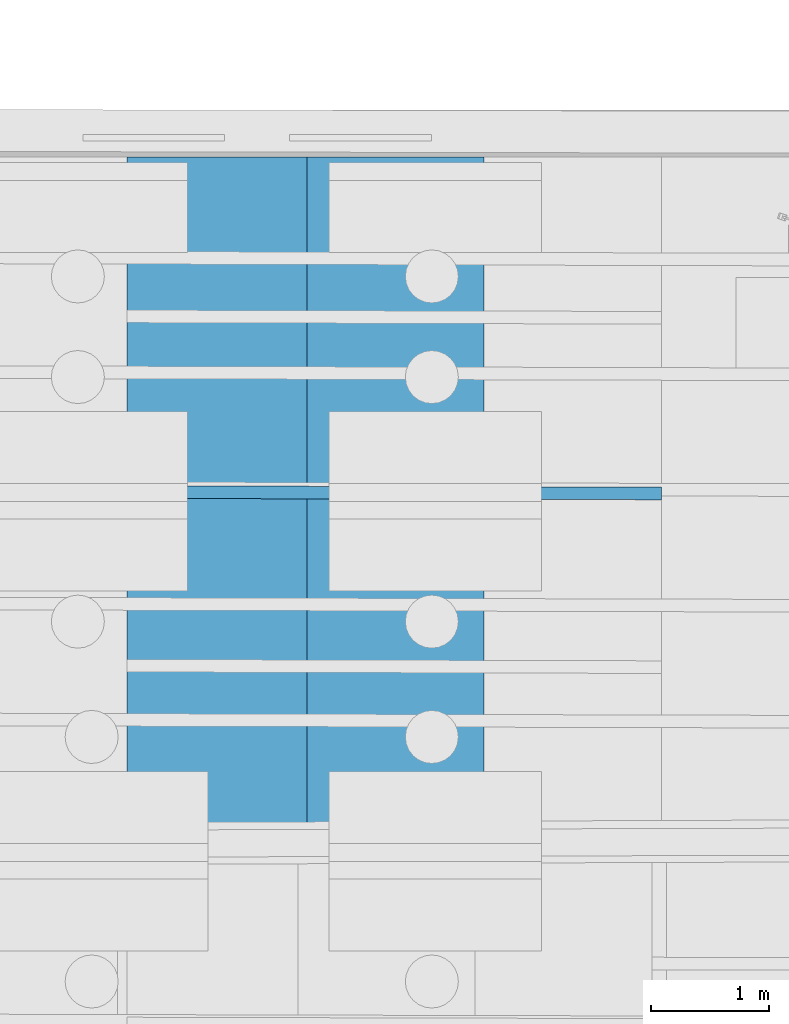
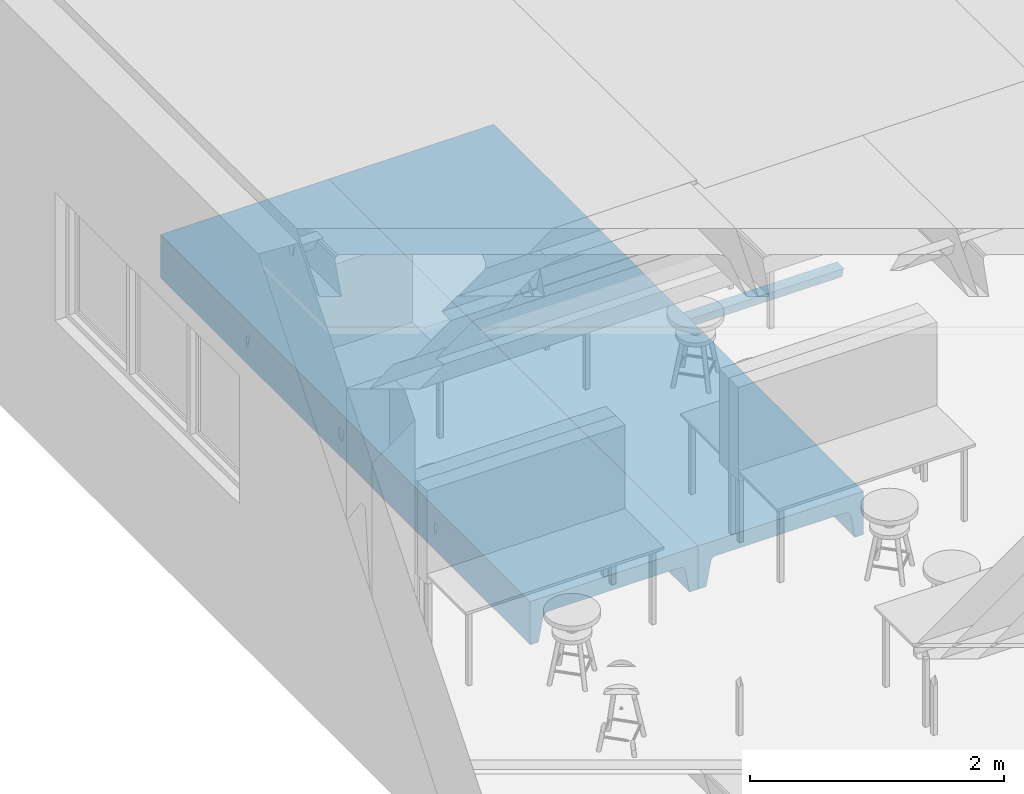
# One storey, part 23 of 153: 3 beams.
"""IFC2X3 building model written with IfcOpenShell, lengths in millimetres."""

from ifc_helpers import new_model, entity, si_unit, converted_unit, derived_unit, money_unit, direction, frame, origin_with_axes, place, context, subcontext, project, spatial, faceted_brep, material, type_object, element, save


model = new_model("IFC2X3")

# Units and contexts
model_context = context("Model", 3, precision=0.01, world=origin_with_axes(), true_north=direction((0.0, 1.0)))
body_context = subcontext(model_context, "Body", "Model", "MODEL_VIEW")
ifc_project = project(units=[si_unit("LENGTHUNIT", "METRE", prefix="MILLI"), si_unit("AREAUNIT", "SQUARE_METRE"), si_unit("VOLUMEUNIT", "CUBIC_METRE"), converted_unit("PLANEANGLEUNIT", "DEGREE", entity("IfcPlaneAngleMeasure", 0.0174532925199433), si_unit("PLANEANGLEUNIT", "RADIAN"), dimensions=[0, 0, 0, 0, 0, 0, 0]), money_unit("EUR"), converted_unit("TIMEUNIT", "Year", entity("IfcTimeMeasure", 31557600.0), si_unit("TIMEUNIT", "SECOND"), dimensions=[0, 0, 1, 0, 0, 0, 0]), si_unit("MASSUNIT", "GRAM", prefix="KILO"), si_unit("THERMODYNAMICTEMPERATUREUNIT", "DEGREE_CELSIUS"), si_unit("LUMINOUSINTENSITYUNIT", "LUMEN"), si_unit("ENERGYUNIT", "JOULE", prefix="MEGA"), derived_unit("THERMALCONDUCTANCEUNIT", [(si_unit("POWERUNIT", "WATT"), 1), (si_unit("LENGTHUNIT", "METRE"), -1), (si_unit("THERMODYNAMICTEMPERATUREUNIT", "KELVIN"), -1)]), derived_unit("SPECIFICHEATCAPACITYUNIT", [(si_unit("ENERGYUNIT", "JOULE"), 1), (si_unit("MASSUNIT", "GRAM", prefix="KILO"), -1), (si_unit("THERMODYNAMICTEMPERATUREUNIT", "KELVIN"), -1)]), derived_unit("MASSDENSITYUNIT", [(si_unit("MASSUNIT", "GRAM", prefix="KILO"), 1), (si_unit("VOLUMEUNIT", "CUBIC_METRE"), -1)])], contexts=[model_context])

# Site, building, storey
site_placement = place(None, frame((0.0, 0.0, 8650.0), z_axis=(0.0, 0.0, 1.0), x_axis=(1.0, 0.0, 0.0)))
site = spatial("IfcSite", under=ifc_project, at=site_placement, Name="43301:001:0844", CompositionType="ELEMENT")
building_placement = place(site_placement, origin_with_axes())
building = spatial("IfcBuilding", under=site, at=building_placement, Name="Kuressaare Ametikooli tuulikute mehaanikute õppekorpus", CompositionType="ELEMENT")
storey_placement = place(building_placement, frame((0.0, 0.0, 4100.0), z_axis=(0.0, 0.0, 1.0), x_axis=(1.0, 0.0, 0.0)))
storey = spatial("IfcBuildingStorey", under=building, at=storey_placement, Name="2.korrus", CompositionType="ELEMENT", Elevation=4100.0)

# Beams
ifc_material = material(Name="GENEERILINE - KONSTRUKTRIOON")
beam_type_1 = type_object("IfcBeamType", Name="Precast Single Tee 2 107 x 102", PredefinedType="NOTDEFINED")
beam_1_placement = place(storey_placement, frame((89817.75241851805, 35007.19419962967, -689.9999999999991), z_axis=(0.0, 0.0, 1.0), x_axis=(-0.002672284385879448, -0.9999964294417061, 0.0)))
element("IfcBeam", 1, at=beam_1_placement, inside=storey, type_object=beam_type_1, material=ifc_material, context=body_context, shape_type="Brep", body=[
    faceted_brep([(45.31502884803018, 0.0, -5.574334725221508), (45.31502884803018, 4530.016174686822, -5.574334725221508), (53.51387546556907, 4530.016174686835, 0.0), (53.51387546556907, 0.0, 0.0), (40.74041549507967, 0.0, -14.37019773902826), (40.74041549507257, 4530.016174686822, -14.37019773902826), (20.00045776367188, 4530.016174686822, -101.9474782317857), (-19.99954223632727, 4530.016174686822, -101.9474782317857), (-40.74046173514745, 4530.016174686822, -14.3700024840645), (-45.31509550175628, 4530.016174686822, -5.574259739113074), (-53.51387546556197, 4530.016174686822, 0.0), (-53.51387546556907, 0.0, 0.0), (-45.31509550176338, 0.0, -5.574259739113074), (-40.74046173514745, 0.0, -14.3700024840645), (-19.99954223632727, 0.0, -101.9474782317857), (20.00045776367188, 0.0, -101.9474782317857)], [[[0, 1, 2, 3]], [[4, 5, 1, 0]], [[2, 1, 5, 6, 7, 8, 9, 10]], [[3, 2, 10, 11]], [[4, 0, 3, 11, 12, 13, 14, 15]], [[15, 6, 5, 4]], [[14, 7, 6, 15]], [[13, 8, 7, 14]], [[12, 9, 8, 13]], [[11, 10, 9, 12]]]),
])
beam_type_2 = type_object("IfcBeamType", Name="Precast Double Tee 3 1525 x 415", PredefinedType="NOTDEFINED")
beam_2_placement = place(storey_placement, frame((90580.25241851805, 37845.7716648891, -539.9999999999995), z_axis=(0.0, 0.0, 1.0), x_axis=(-1.0, 0.0, 0.0)))
element("IfcBeam", 2, at=beam_2_placement, inside=storey, type_object=beam_type_2, material=ifc_material, context=body_context, shape_type="Brep", body=[
    faceted_brep([(762.5000000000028, 5811.435005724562, -415.0001340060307), (762.5000000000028, 5811.435005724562, 0.0), (762.5000000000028, 0.0, 0.0), (762.5000000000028, 0.0, -415.0001340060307), (762.5000000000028, 4363.570821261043, -149.9999999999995), (762.5000000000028, 4355.371945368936, -155.574334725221), (762.5000000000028, 4350.797315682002, -164.3701977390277), (762.5000000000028, 4330.057283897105, -251.9474782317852), (762.5000000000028, 4310.056754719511, -251.9474782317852), (762.5000000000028, 4310.056754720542, -149.9999999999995), (762.5000000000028, 2883.892655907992, -155.574334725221), (762.5000000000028, 2879.318026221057, -164.3701977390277), (762.5000000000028, 2858.57799443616, -251.9474782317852), (762.5000000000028, 2838.577465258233, -251.9474782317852), (762.5000000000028, 2838.57746525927, -149.9999999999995), (762.5000000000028, 2892.091531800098, -149.9999999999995), (762.5000000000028, 1390.244279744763, -164.3701977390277), (762.5000000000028, 1369.504247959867, -251.9474782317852), (762.5000000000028, 1349.503718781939, -251.9474782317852), (762.5000000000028, 1349.503718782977, -149.9999999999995), (762.5000000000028, 1403.017785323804, -149.9999999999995), (762.5000000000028, 1394.818909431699, -155.574334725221), (-630.3742921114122, 5811.435005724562, -164.5802967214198), (-642.2018747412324, 5811.435005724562, -180.3584478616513), (-647.7450826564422, 5811.435005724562, -199.2823642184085), (-682.2510280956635, 5811.435005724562, -415.0001340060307), (-762.5000000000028, 5811.435005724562, -415.0001340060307), (-762.5000000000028, 5811.435005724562, 0.0), (686.7096088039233, 5811.435005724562, -415.0001340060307), (644.8621749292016, 5811.435005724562, -188.8133237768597), (639.0698943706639, 5811.435005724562, -173.3049793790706), (628.3234422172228, 5811.435005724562, -160.712401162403), (613.9186038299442, 5811.435005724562, -152.5539766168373), (597.5922853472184, 5811.435005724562, -149.8134319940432), (596.1468073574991, 5811.435005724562, -149.8234995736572), (-594.4825828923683, 5811.435005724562, -149.8234995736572), (-613.7646293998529, 5811.435005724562, -153.9519916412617), (-762.5000000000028, 0.0, 0.0), (686.7096088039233, 0.0, -415.0001340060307), (-762.5000000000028, 0.0, -415.0001340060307), (-682.2510280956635, 0.0, -415.0001340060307), (-647.7450826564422, 0.0, -199.2823642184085), (-642.2018747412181, 0.0, -180.3584478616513), (-630.3742921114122, 0.0, -164.5802967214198), (-613.7646293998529, 0.0, -153.9519916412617), (-594.4825828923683, 0.0, -149.8234995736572), (596.1468073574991, 0.0, -149.8234995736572), (597.5922853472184, 0.0, -149.8134319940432), (613.9186038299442, 0.0, -152.5539766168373), (628.3234422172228, 0.0, -160.712401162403), (639.0698943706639, 0.0, -173.3049793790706), (644.8621749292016, 0.0, -188.8133237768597), (619.2514680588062, 4355.754747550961, -155.574334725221), (598.7037318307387, 4364.008533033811, -149.9999999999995), (613.9186038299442, 4360.211419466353, -152.5539766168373), (631.4449901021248, 4351.147533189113, -164.3701977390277), (628.3234422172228, 4353.058253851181, -160.712401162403), (656.5427957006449, 4330.340432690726, -251.9474782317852), (639.0698943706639, 4349.011224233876, -173.3049793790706), (644.8621749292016, 4345.323062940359, -188.8133237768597), (762.4465555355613, 4290.057283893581, -251.9474782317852), (656.5427957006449, 4290.340289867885, -251.9474782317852), (762.3911299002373, 4269.316438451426, -164.370002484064), (762.3789051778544, 4264.741821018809, -155.5742597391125), (762.3569957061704, 4256.543070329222, -149.9999999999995), (598.7037318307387, 4256.980399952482, -149.9999999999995), (619.2514680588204, 2884.275458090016, -155.574334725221), (628.3234422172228, 2881.578964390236, -160.712401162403), (631.4449901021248, 2879.668243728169, -164.3701977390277), (639.0698943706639, 2877.531934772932, -173.3049793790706), (644.8621749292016, 2873.843773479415, -188.8133237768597), (656.5427957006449, 2858.861143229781, -251.9474782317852), (656.5427957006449, 2818.861000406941, -251.9474782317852), (762.4465555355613, 2818.577994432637, -251.9474782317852), (762.3789051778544, 2793.262531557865, -155.5742597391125), (762.3569957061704, 2785.063780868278, -149.9999999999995), (762.3911299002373, 2797.837148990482, -164.370002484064), (598.7037318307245, 2785.501110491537, -149.9999999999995), (598.7037318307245, 2892.529243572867, -149.9999999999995), (613.9186038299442, 2888.732130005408, -152.5539766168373), (631.4449901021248, 1390.594497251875, -164.3701977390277), (639.0698943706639, 1388.458188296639, -173.3049793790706), (644.8621749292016, 1384.770027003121, -188.8133237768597), (656.5427957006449, 1369.787396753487, -251.9474782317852), (656.5427957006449, 1329.787253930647, -251.9474782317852), (762.4465555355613, 1329.504247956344, -251.9474782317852), (762.3569957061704, 1295.990034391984, -149.9999999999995), (762.3911299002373, 1308.763402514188, -164.370002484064), (762.3789051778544, 1304.188785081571, -155.5742597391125), (598.7037318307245, 1296.427364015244, -149.9999999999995), (598.7037318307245, 1403.455497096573, -149.9999999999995), (613.9186038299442, 1399.658383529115, -152.5539766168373), (619.2514680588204, 1395.201711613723, -155.574334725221), (628.3234422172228, 1392.505217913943, -160.712401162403), (-642.2018747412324, 4350.764758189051, -180.3584478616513), (-630.3742921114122, 4354.469729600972, -164.5802967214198), (-647.7450826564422, 4346.298013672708, -199.2823642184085), (-647.7450826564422, 2809.873750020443, -199.2823642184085), (-647.7450826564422, 1385.74497773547, -199.2823642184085), (-656.169328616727, 1373.295349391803, -251.9474782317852), (-656.169328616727, 1333.295206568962, -251.9474782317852), (-647.7450826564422, 1320.80000354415, -199.2823642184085), (-656.1693286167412, 4333.848385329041, -251.9474782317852), (-656.1693286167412, 4293.8482425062, -251.9474782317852), (-647.7450826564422, 4281.353039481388, -199.2823642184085), (-647.7450826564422, 2874.818724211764, -199.2823642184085), (-656.169328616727, 2862.369095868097, -251.9474782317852), (-656.169328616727, 2822.368953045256, -251.9474782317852), (-762.5000000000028, 4294.132389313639, -251.9474782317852), (-762.5000000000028, 4334.132532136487, -251.9474782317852), (-762.5000000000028, 4354.872563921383, -164.3701977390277), (-762.5000000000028, 4359.447193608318, -155.574334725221), (-762.5000000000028, 4367.646069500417, -149.9999999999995), (-762.5000000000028, 4260.617936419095, -149.9999999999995), (-762.5000000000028, 4268.816745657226, -155.5742597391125), (-762.5000000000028, 4273.391395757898, -164.370002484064), (-762.5000000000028, 2862.653242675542, -251.9474782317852), (-762.5000000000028, 2883.393274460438, -164.3701977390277), (-762.5000000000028, 2887.967904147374, -155.574334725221), (-762.5000000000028, 2896.166780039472, -149.9999999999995), (-762.5000000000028, 2789.13864695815, -149.9999999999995), (-762.5000000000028, 2797.337456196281, -155.5742597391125), (-762.5000000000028, 2801.912106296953, -164.370002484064), (-762.5000000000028, 2822.653099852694, -251.9474782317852), (-762.5000000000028, 1394.319527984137, -164.3701977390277), (-762.5000000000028, 1398.894157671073, -155.574334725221), (-762.5000000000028, 1407.093033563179, -149.9999999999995), (-762.5000000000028, 1300.06490048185, -149.9999999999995), (-762.5000000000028, 1308.263709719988, -155.5742597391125), (-762.5000000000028, 1312.83835982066, -164.370002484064), (-762.5000000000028, 1333.5793533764, -251.9474782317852), (-762.5000000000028, 1373.579496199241, -251.9474782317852), (644.8621749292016, 2803.940138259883, -188.8133237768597), (644.8621749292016, 4275.419427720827, -188.8133237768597), (644.8621749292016, 1314.866391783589, -188.8133237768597), (613.9186038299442, 2789.216926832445, -152.5539766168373), (613.9186038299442, 1300.143180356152, -152.5539766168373), (613.9186038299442, 4260.69621629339, -152.5539766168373), (-595.3069248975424, 1299.618111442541, -149.9999999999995), (-595.3069248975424, 1406.64624452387, -149.9999999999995), (-613.7646293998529, 1400.88287727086, -153.9519916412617), (-613.7646293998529, 2794.553904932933, -153.9519916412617), (-595.3069248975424, 2788.691857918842, -149.9999999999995), (-595.3069248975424, 2895.719991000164, -149.9999999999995), (-613.7646293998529, 2889.956623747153, -153.9519916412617), (-613.7646293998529, 4266.033194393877, -153.9519916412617), (-595.3069248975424, 4260.171147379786, -149.9999999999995), (-595.3069248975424, 4367.199280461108, -149.9999999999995), (-613.7646293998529, 4361.435913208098, -153.9519916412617), (-613.7646293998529, 1305.480158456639, -153.9519916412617), (-616.2999886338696, 4359.056504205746, -155.574334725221), (-630.0459544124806, 4354.518607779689, -164.3701977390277), (-642.2018747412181, 1316.303435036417, -180.3584478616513), (-630.3742921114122, 1312.535085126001, -164.5802967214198), (-630.0456492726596, 1312.484402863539, -164.370002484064), (-616.2998714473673, 1307.873020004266, -155.5742597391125), (619.2513356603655, 1304.571264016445, -155.5742597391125), (628.3234422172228, 1307.21935886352, -160.712401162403), (631.4448234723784, 1309.11332953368, -164.370002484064), (639.0698943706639, 1311.209025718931, -173.3049793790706), (639.0698943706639, 4271.762061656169, -173.3049793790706), (631.4448234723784, 4269.666365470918, -164.370002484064), (628.3234422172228, 4267.772394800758, -160.712401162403), (619.2513356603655, 4265.124299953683, -155.5742597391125), (639.0698943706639, 2800.282772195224, -173.3049793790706), (631.4448234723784, 2798.187076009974, -164.370002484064), (619.2513356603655, 2793.645010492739, -155.5742597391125), (628.3234422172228, 2796.293105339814, -160.712401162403), (-642.2018747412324, 2805.377181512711, -180.3584478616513), (-642.2018747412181, 1390.211722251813, -180.3584478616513), (-630.0459544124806, 1393.96557184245, -164.3701977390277), (-630.3742921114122, 1393.916693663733, -164.5802967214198), (-642.2018747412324, 4276.856470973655, -180.3584478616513), (-630.0456492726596, 4273.037438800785, -164.370002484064), (-630.3742921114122, 4273.088121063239, -164.5802967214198), (-642.2018747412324, 2879.285468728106, -180.3584478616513), (-630.3742921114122, 2882.990440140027, -164.5802967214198), (-630.0459544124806, 2883.039318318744, -164.3701977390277), (-630.0456492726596, 2801.55814933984, -164.370002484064), (-630.3742921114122, 2801.608831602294, -164.5802967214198), (-616.2998714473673, 4268.426055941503, -155.5742597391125), (-616.2999886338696, 2887.577214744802, -155.574334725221), (-616.2998714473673, 2796.946766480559, -155.5742597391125), (-616.2999886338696, 1398.503468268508, -155.574334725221)], [[[0, 1, 2, 3], [4, 5, 6, 7, 8, 9], [10, 11, 12, 13, 14, 15], [16, 17, 18, 19, 20, 21]], [[22, 23, 24, 25, 26, 27, 1, 0, 28, 29, 30, 31, 32, 33, 34, 35, 36]], [[1, 27, 37, 2]], [[38, 3, 2, 37, 39, 40, 41, 42, 43, 44, 45, 46, 47, 48, 49, 50, 51]], [[28, 0, 3, 38]], [[52, 5, 4, 53, 54]], [[55, 6, 5, 52, 56]], [[57, 7, 6, 55, 58, 59]], [[60, 8, 7, 57, 61]], [[62, 63, 64, 9, 8, 60]], [[4, 9, 64, 65, 53]], [[11, 10, 66, 67, 68]], [[12, 11, 68, 69, 70, 71]], [[13, 12, 71, 72, 73]], [[74, 75, 14, 13, 73, 76]], [[14, 75, 77, 78, 15]], [[10, 15, 78, 79, 66]], [[16, 80, 81, 82, 83, 17]], [[17, 83, 84, 85, 18]], [[86, 19, 18, 85, 87, 88]], [[86, 89, 90, 20, 19]], [[20, 90, 91, 92, 21]], [[21, 92, 93, 80, 16]], [[94, 23, 22, 95]], [[96, 24, 23, 94]], [[97, 98, 99, 100, 101, 41, 40, 25, 24, 96, 102, 103, 104, 105, 106, 107]], [[26, 25, 40, 39]], [[27, 26, 39, 37], [108, 109, 110, 111, 112, 113, 114, 115], [116, 117, 118, 119, 120, 121, 122, 123], [124, 125, 126, 127, 128, 129, 130, 131]], [[84, 83, 82, 132, 72, 71, 70, 133, 61, 57, 59, 29, 28, 38, 51, 134]], [[58, 30, 29, 59]], [[31, 30, 58, 55, 56]], [[32, 31, 56, 52, 54]], [[135, 91, 90, 89, 136, 48, 47, 33, 32, 54, 53, 65, 137, 79, 78, 77]], [[34, 33, 47, 46]], [[35, 34, 46, 45]], [[138, 139, 140, 141, 142, 143, 144, 145, 146, 147, 148, 36, 35, 45, 44, 149]], [[36, 148, 150, 151, 95, 22]], [[41, 101, 152, 42]], [[42, 152, 153, 43]], [[154, 155, 149, 44, 43, 153]], [[136, 156, 157, 49, 48]], [[157, 158, 159, 50, 49]], [[50, 159, 134, 51]], [[60, 61, 133, 160, 161, 62]], [[63, 62, 161, 162, 163]], [[64, 63, 163, 137, 65]], [[162, 67, 66, 79, 137, 163]], [[160, 69, 68, 67, 162, 161]], [[160, 133, 70, 69]], [[72, 132, 164, 165, 76, 73]], [[74, 166, 135, 77, 75]], [[76, 165, 167, 166, 74]], [[81, 80, 93, 167, 165, 164]], [[132, 82, 81, 164]], [[134, 159, 158, 87, 85, 84]], [[158, 157, 156, 88, 87]], [[156, 136, 89, 86, 88]], [[93, 92, 91, 135, 166, 167]], [[94, 95, 151, 110, 109, 102, 96]], [[168, 169, 98, 97]], [[170, 124, 131, 99, 98, 169, 171]], [[99, 131, 130, 100]], [[100, 130, 129, 154, 153, 152, 101]], [[108, 103, 102, 109]], [[172, 104, 103, 108, 115, 173, 174]], [[104, 172, 175, 105]], [[176, 177, 117, 116, 106, 105, 175]], [[107, 106, 116, 123]], [[97, 107, 123, 122, 178, 179, 168]], [[110, 151, 150, 111]], [[150, 148, 147, 112, 111]], [[112, 147, 146, 113]], [[146, 145, 180, 114, 113]], [[114, 180, 173, 115]], [[177, 181, 118, 117]], [[144, 143, 119, 118, 181]], [[143, 142, 120, 119]], [[141, 182, 121, 120, 142]], [[182, 178, 122, 121]], [[183, 125, 124, 170]], [[139, 126, 125, 183, 140]], [[138, 127, 126, 139]], [[155, 128, 127, 138, 149]], [[154, 129, 128, 155]], [[183, 170, 171, 179, 178, 182, 141, 140]], [[144, 181, 177, 176, 174, 173, 180, 145]], [[179, 171, 169, 168]], [[172, 174, 176, 175]]]),
])
beam_type_3 = type_object("IfcBeamType", Name="Precast Double Tee 3 1500 x 415", PredefinedType="NOTDEFINED")
beam_3_placement = place(storey_placement, frame((92092.75241851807, 37845.7716648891, -539.9999999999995), z_axis=(0.0, 0.0, 1.0), x_axis=(-1.0, 0.0, 0.0)))
element("IfcBeam", 3, at=beam_3_placement, inside=storey, type_object=beam_type_3, material=ifc_material, context=body_context, shape_type="Brep", body=[
    faceted_brep([(750.0, 5811.435005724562, -415.0001340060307), (750.0, 5811.435005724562, 0.0), (750.0, 0.0, 0.0), (750.0, 0.0, -415.0001340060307), (750.0, 4354.872563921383, -164.3701977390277), (750.0, 4334.132532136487, -251.9474782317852), (750.0, 4294.132389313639, -251.9474782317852), (750.0, 4273.391395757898, -164.370002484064), (750.0, 4268.816745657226, -155.5742597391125), (750.0, 4260.617936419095, -149.9999999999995), (750.0, 4367.646069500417, -149.9999999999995), (750.0, 4359.447193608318, -155.574334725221), (750.0, 2862.653242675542, -251.9474782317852), (750.0, 2822.653099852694, -251.9474782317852), (750.0, 2801.912106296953, -164.370002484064), (750.0, 2797.337456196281, -155.5742597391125), (750.0, 2789.13864695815, -149.9999999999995), (750.0, 2896.166780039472, -149.9999999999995), (750.0, 2887.967904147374, -155.574334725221), (750.0, 2883.393274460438, -164.3701977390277), (750.0, 1333.5793533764, -251.9474782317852), (750.0, 1312.83835982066, -164.370002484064), (750.0, 1308.263709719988, -155.5742597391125), (750.0, 1300.06490048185, -149.9999999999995), (750.0, 1407.093033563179, -149.9999999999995), (750.0, 1398.894157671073, -155.574334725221), (750.0, 1394.319527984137, -164.3701977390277), (750.0, 1373.579496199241, -251.9474782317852), (-620.2445718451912, 5811.435005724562, -164.78453447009), (-631.9524845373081, 5811.435005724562, -180.7698200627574), (-637.2189803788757, 5811.435005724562, -199.8713539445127), (-671.0665850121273, 5811.435005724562, -415.0001340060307), (-750.0, 5811.435005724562, -415.0001340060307), (-750.0, 5811.435005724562, 0.0), (675.4520742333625, 5811.435005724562, -415.0001340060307), (634.6046867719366, 5811.435005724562, -190.4615775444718), (629.2080045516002, 5811.435005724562, -174.2851638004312), (618.4231009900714, 5811.435005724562, -161.0758339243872), (603.6532168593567, 5811.435005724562, -152.5522746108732), (586.8200850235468, 5811.435005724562, -149.8234995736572), (-584.2531439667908, 5811.435005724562, -149.8234995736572), (-603.6221693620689, 5811.435005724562, -154.0002722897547), (-750.0, 0.0, 0.0), (675.4520742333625, 0.0, -415.0001340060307), (-750.0, 0.0, -415.0001340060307), (-671.0665850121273, 0.0, -415.0001340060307), (-637.2189803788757, 0.0, -199.8713539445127), (-631.9524845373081, 0.0, -180.7698200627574), (-620.2445718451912, 0.0, -164.78453447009), (-603.6221693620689, 0.0, -154.0002722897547), (-584.2531439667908, 0.0, -149.8234995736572), (586.8200850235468, 0.0, -149.8234995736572), (603.6532168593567, 0.0, -152.5522746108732), (618.4231009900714, 0.0, -161.0758339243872), (629.2080045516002, 0.0, -174.2851638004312), (634.6046867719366, 0.0, -190.4615775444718), (645.7900192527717, 4334.411011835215, -251.9474782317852), (621.1128207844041, 4355.216988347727, -164.3701977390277), (629.2080045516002, 4352.847295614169, -174.2851638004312), (634.6046867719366, 4349.001979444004, -190.4615775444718), (645.7900192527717, 4294.410869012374, -251.9474782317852), (634.6046867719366, 4279.879039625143, -190.4615775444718), (629.2080045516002, 4276.062397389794, -174.2851638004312), (621.1126613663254, 4273.735820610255, -164.370002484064), (618.4231009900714, 4272.029716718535, -161.0758339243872), (608.889805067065, 4269.193833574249, -155.5742597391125), (603.6532168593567, 4264.762989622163, -152.5522746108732), (587.9088720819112, 4261.051091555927, -149.9999999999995), (587.9088720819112, 4368.079224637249, -149.9999999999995), (608.8899350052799, 4359.824281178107, -155.574334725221), (603.6532168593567, 4364.283199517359, -152.5522746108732), (618.4231009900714, 4356.937537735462, -161.0758339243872), (645.7900192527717, 2862.93172237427, -251.9474782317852), (645.7900192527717, 2822.931579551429, -251.9474782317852), (634.6046867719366, 2808.399750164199, -190.4615775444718), (629.2080045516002, 2804.583107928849, -174.2851638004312), (621.1126613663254, 2802.256531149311, -164.370002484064), (618.4231009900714, 2800.55042725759, -161.0758339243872), (608.889805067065, 2797.714544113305, -155.5742597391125), (603.6532168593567, 2793.283700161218, -152.5522746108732), (587.908872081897, 2789.571802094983, -149.9999999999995), (587.908872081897, 2896.599935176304, -149.9999999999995), (603.6532168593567, 2892.803910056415, -152.5522746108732), (608.8899350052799, 2888.344991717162, -155.574334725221), (618.4231009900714, 2885.458248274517, -161.0758339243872), (621.1128207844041, 2883.737698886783, -164.3701977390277), (629.2080045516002, 2881.368006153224, -174.2851638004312), (634.6046867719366, 2877.52268998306, -190.4615775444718), (634.6046867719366, 1319.326003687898, -190.4615775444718), (629.2080045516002, 1315.509361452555, -174.2851638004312), (621.1126613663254, 1313.182784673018, -164.370002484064), (645.7900192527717, 1333.857833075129, -251.9474782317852), (618.4231009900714, 1311.476680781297, -161.0758339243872), (608.889805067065, 1308.640797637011, -155.5742597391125), (603.6532168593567, 1304.209953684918, -152.5522746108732), (587.908872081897, 1300.498055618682, -149.9999999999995), (587.908872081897, 1407.526188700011, -149.9999999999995), (603.6532168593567, 1403.730163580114, -152.5522746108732), (608.8899350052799, 1399.271245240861, -155.574334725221), (618.4231009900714, 1396.384501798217, -161.0758339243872), (621.1128207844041, 1394.663952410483, -164.3701977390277), (629.2080045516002, 1392.29425967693, -174.2851638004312), (634.6046867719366, 1388.448943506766, -190.4615775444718), (645.7900192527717, 1373.857975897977, -251.9474782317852), (-631.9524845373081, 4354.681792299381, -180.7698200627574), (-620.2445718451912, 4358.436137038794, -164.78453447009), (-637.2189803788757, 4350.172244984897, -199.8713539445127), (-637.2189803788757, 2814.026956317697, -199.8713539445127), (-637.2189803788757, 1389.619209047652, -199.8713539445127), (-645.4124543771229, 1377.308448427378, -251.9474782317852), (-645.4124543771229, 1337.30830560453, -251.9474782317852), (-637.2189803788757, 1324.953209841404, -199.8713539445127), (-645.4124543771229, 4337.861484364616, -251.9474782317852), (-645.4124543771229, 4297.861341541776, -251.9474782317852), (-637.2189803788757, 4285.506245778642, -199.8713539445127), (-637.2189803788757, 2878.692955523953, -199.8713539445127), (-645.4124543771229, 2866.382194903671, -251.9474782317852), (-645.4124543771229, 2826.382052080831, -251.9474782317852), (-750.0, 4298.140830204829, -251.9474782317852), (-750.0, 4338.140973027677, -251.9474782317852), (-750.0, 4358.881004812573, -164.3701977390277), (-750.0, 4363.455634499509, -155.574334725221), (-750.0, 4371.654510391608, -149.9999999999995), (-750.0, 4264.626377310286, -149.9999999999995), (-750.0, 4272.825186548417, -155.5742597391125), (-750.0, 4277.399836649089, -164.370002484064), (-750.0, 2866.661683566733, -251.9474782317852), (-750.0, 2887.401715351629, -164.3701977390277), (-750.0, 2891.976345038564, -155.574334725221), (-750.0, 2900.175220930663, -149.9999999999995), (-750.0, 2793.147087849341, -149.9999999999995), (-750.0, 2801.345897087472, -155.5742597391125), (-750.0, 2805.920547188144, -164.370002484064), (-750.0, 2826.661540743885, -251.9474782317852), (-750.0, 1398.327968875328, -164.3701977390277), (-750.0, 1402.902598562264, -155.574334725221), (-750.0, 1411.101474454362, -149.9999999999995), (-750.0, 1304.073341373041, -149.9999999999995), (-750.0, 1312.272150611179, -155.5742597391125), (-750.0, 1316.846800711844, -164.370002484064), (-750.0, 1337.587794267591, -251.9474782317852), (-750.0, 1377.587937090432, -251.9474782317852), (-585.0716326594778, 1303.632604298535, -149.9999999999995), (-585.0716326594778, 1410.660737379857, -149.9999999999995), (-603.6221693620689, 1404.826605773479, -154.0002722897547), (-603.6221693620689, 2798.639658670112, -154.0002722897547), (-585.0716326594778, 2792.706350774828, -149.9999999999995), (-585.0716326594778, 2899.734483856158, -149.9999999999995), (-603.6221693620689, 2893.900352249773, -154.0002722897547), (-603.6221693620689, 4270.118948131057, -154.0002722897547), (-585.0716326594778, 4264.185640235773, -149.9999999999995), (-585.0716326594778, 4371.213773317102, -149.9999999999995), (-603.6221693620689, 4365.379641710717, -154.0002722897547), (-603.6221693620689, 1309.565912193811, -154.0002722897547), (-606.0483621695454, 4363.070953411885, -155.574334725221), (-619.6059308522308, 4358.532553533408, -164.3701977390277), (-631.9524845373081, 1320.415315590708, -180.7698200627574), (-620.2445718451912, 1316.598229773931, -164.78453447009), (-619.6056298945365, 1316.498348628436, -164.370002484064), (-606.0482465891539, 1311.887469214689, -155.5742597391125), (-631.9524845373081, 2809.489062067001, -180.7698200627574), (-631.9524845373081, 1394.128756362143, -180.7698200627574), (-619.6059308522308, 1397.97951759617, -164.3701977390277), (-620.2445718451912, 1397.883101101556, -164.78453447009), (-631.9524845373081, 4280.968351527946, -180.7698200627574), (-619.6056298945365, 4277.051384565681, -164.370002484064), (-620.2445718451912, 4277.151265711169, -164.78453447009), (-631.9524845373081, 2883.202502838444, -180.7698200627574), (-620.2445718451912, 2886.956847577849, -164.78453447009), (-619.6059308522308, 2887.053264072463, -164.3701977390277), (-619.6056298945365, 2805.572095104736, -164.370002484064), (-620.2445718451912, 2805.671976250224, -164.78453447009), (-606.0482465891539, 4272.440505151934, -155.5742597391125), (-606.0483621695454, 2891.591663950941, -155.574334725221), (-606.0482465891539, 2800.96121569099, -155.5742597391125), (-606.0483621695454, 1402.51791747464, -155.574334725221)], [[[0, 1, 2, 3], [4, 5, 6, 7, 8, 9, 10, 11], [12, 13, 14, 15, 16, 17, 18, 19], [20, 21, 22, 23, 24, 25, 26, 27]], [[28, 29, 30, 31, 32, 33, 1, 0, 34, 35, 36, 37, 38, 39, 40, 41]], [[1, 33, 42, 2]], [[43, 3, 2, 42, 44, 45, 46, 47, 48, 49, 50, 51, 52, 53, 54, 55]], [[34, 0, 3, 43]], [[56, 5, 4, 57, 58, 59]], [[60, 6, 5, 56]], [[6, 60, 61, 62, 63, 7]], [[8, 7, 63, 64, 65]], [[9, 8, 65, 66, 67]], [[68, 10, 9, 67]], [[69, 11, 10, 68, 70]], [[57, 4, 11, 69, 71]], [[13, 12, 72, 73]], [[73, 74, 75, 76, 14, 13]], [[14, 76, 77, 78, 15]], [[15, 78, 79, 80, 16]], [[17, 16, 80, 81]], [[18, 17, 81, 82, 83]], [[19, 18, 83, 84, 85]], [[12, 19, 85, 86, 87, 72]], [[88, 89, 90, 21, 20, 91]], [[90, 92, 93, 22, 21]], [[93, 94, 95, 23, 22]], [[23, 95, 96, 24]], [[24, 96, 97, 98, 25]], [[25, 98, 99, 100, 26]], [[26, 100, 101, 102, 103, 27]], [[27, 103, 91, 20]], [[104, 29, 28, 105]], [[106, 30, 29, 104]], [[107, 108, 109, 110, 111, 46, 45, 31, 30, 106, 112, 113, 114, 115, 116, 117]], [[32, 31, 45, 44]], [[33, 32, 44, 42], [118, 119, 120, 121, 122, 123, 124, 125], [126, 127, 128, 129, 130, 131, 132, 133], [134, 135, 136, 137, 138, 139, 140, 141]], [[91, 103, 102, 74, 73, 72, 87, 61, 60, 56, 59, 35, 34, 43, 55, 88]], [[58, 36, 35, 59]], [[37, 36, 58, 57, 71]], [[38, 37, 71, 69, 70]], [[79, 97, 96, 95, 94, 52, 51, 39, 38, 70, 68, 67, 66, 82, 81, 80]], [[40, 39, 51, 50]], [[142, 143, 144, 145, 146, 147, 148, 149, 150, 151, 152, 41, 40, 50, 49, 153]], [[41, 152, 154, 155, 105, 28]], [[46, 111, 156, 47]], [[47, 156, 157, 48]], [[158, 159, 153, 49, 48, 157]], [[94, 93, 92, 53, 52]], [[92, 90, 89, 54, 53]], [[54, 89, 88, 55]], [[62, 61, 87, 86]], [[62, 86, 85, 84, 64, 63]], [[64, 84, 83, 82, 66, 65]], [[74, 102, 101, 75]], [[101, 100, 99, 77, 76, 75]], [[99, 98, 97, 79, 78, 77]], [[104, 105, 155, 120, 119, 112, 106]], [[160, 161, 108, 107]], [[162, 134, 141, 109, 108, 161, 163]], [[109, 141, 140, 110]], [[110, 140, 139, 158, 157, 156, 111]], [[118, 113, 112, 119]], [[164, 114, 113, 118, 125, 165, 166]], [[114, 164, 167, 115]], [[168, 169, 127, 126, 116, 115, 167]], [[117, 116, 126, 133]], [[107, 117, 133, 132, 170, 171, 160]], [[120, 155, 154, 121]], [[154, 152, 151, 122, 121]], [[122, 151, 150, 123]], [[150, 149, 172, 124, 123]], [[124, 172, 165, 125]], [[169, 173, 128, 127]], [[148, 147, 129, 128, 173]], [[147, 146, 130, 129]], [[145, 174, 131, 130, 146]], [[174, 170, 132, 131]], [[175, 135, 134, 162]], [[143, 136, 135, 175, 144]], [[142, 137, 136, 143]], [[159, 138, 137, 142, 153]], [[158, 139, 138, 159]], [[175, 162, 163, 171, 170, 174, 145, 144]], [[148, 173, 169, 168, 166, 165, 172, 149]], [[171, 163, 161, 160]], [[164, 166, 168, 167]]]),
])

save(model, "model.ifc")
